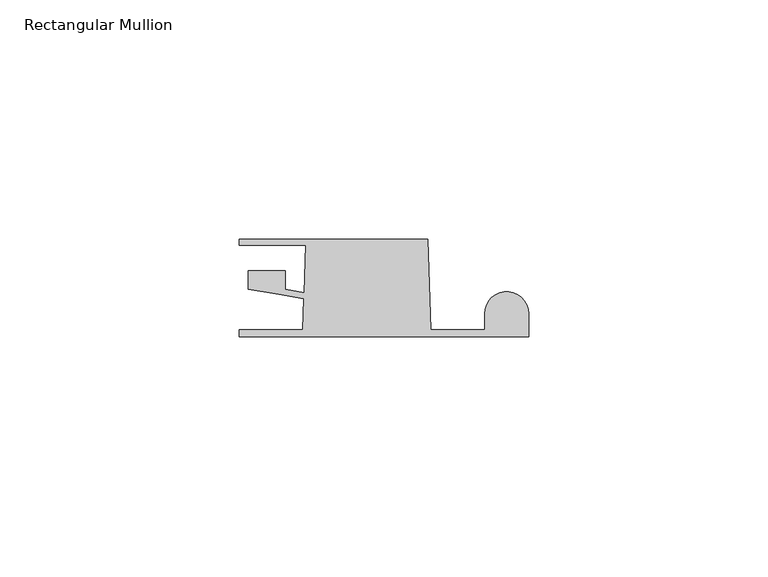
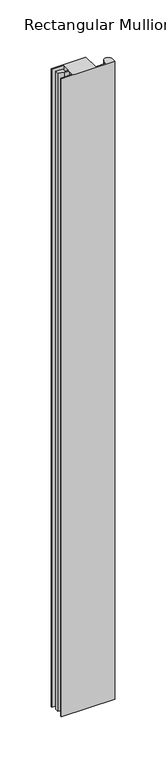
"""IFC4 building model written with IfcOpenShell, lengths in millimetres: member geometry, Rectangular Mullion : QuickPanel-Absolute_Multi-Angle-Inside-Corner-Trim-Left."""

from ifc_helpers import new_model, si_unit, point, frame, frame_2d, origin, place, context, project, spatial, polyline, circle_curve, trimmed, segment, composite_curve, outline, extrude, source, transform, mapped, element, save


def rectangular_mullion_2b6e40d8(model_context):
    return source(origin(), model_context, "Body", "SweptSolid", [
        extrude(outline(composite_curve([segment(polyline([(-60.3420745, -8.095605), (-60.3420745, -6.6935423), (-47.1011618, -6.6935423), (-46.8743766, -0.1992641), (-52.1246575, 0.7008023), (-58.5599901, 1.8040245), (-58.5599901, 5.6493034), (-50.815217, 5.6493034), (-50.815217, 1.7648465), (-46.8296481, 1.0815922), (-46.485721, 10.9303752), (-60.3420745, 10.9303752), (-60.3420745, 12.1803727), (-21.0443089, 12.1803727), (-20.3850086, -6.6995181), (-9.144, -6.6995181), (-9.144, -3.3003083)]), True, "CONTINUOUS"), segment(trimmed(circle_curve(frame_2d((-4.572, -3.3003083)), 4.572), [point((-9.144, -3.3003083))], [point((0.0, -3.3003083))], False, "CARTESIAN"), True, "CONTINUOUS"), segment(polyline([(0.0, -3.3003083), (0.0, -8.095605), (-60.3420745, -8.095605)]), True, "CONTINUOUS")], self_intersect=False)), frame((0.0, 0.0, -763.4314025), z_axis=(0.0, 0.0, 1.0), x_axis=(1.0, 0.0, 0.0)), (0.0, 0.0, 1.0), 763.4314025),
    ])


if __name__ == "__main__":
    model = new_model("IFC4")
    model_context = context("Model", 3, world=origin())
    ifc_project = project(units=[si_unit("LENGTHUNIT", "METRE", prefix="MILLI")], contexts=[model_context])
    site = spatial("IfcSite", under=ifc_project)
    building = spatial("IfcBuilding", under=site)
    placement = place(None, origin())
    rectangular_mullion_shape = rectangular_mullion_2b6e40d8(model_context)
    element("IfcMember", 1, ObjectType="Rectangular Mullion : QuickPanel-Absolute_Multi-Angle-Inside-Corner-Trim-Left", at=placement, inside=building, context=model_context, shape_type="MappedRepresentation", body=[
        mapped(rectangular_mullion_shape, transform((0.0, 0.0, 0.0), x_axis=(1.0, 0.0, 0.0), y_axis=(0.0, 1.0, 0.0), z_axis=(0.0, 0.0, 1.0))),
    ])
    save(model, "model.ifc")
